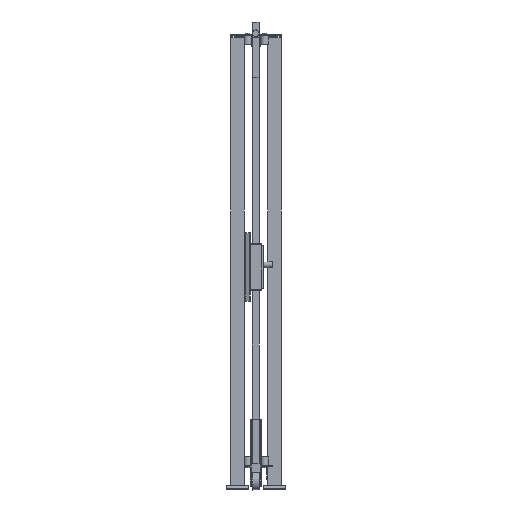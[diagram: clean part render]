
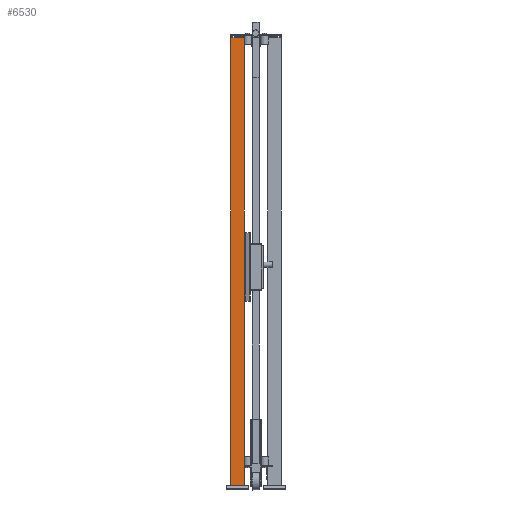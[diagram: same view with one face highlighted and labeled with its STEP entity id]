
A CAD part, left-side view. The second image highlights one B-rep face of the part: STEP entity #6530.
In plain terms, the highlighted planar face has unit normal (-1, 0, 0) as drawn and (0, 1, 0) by its records, which use the part's own axes.
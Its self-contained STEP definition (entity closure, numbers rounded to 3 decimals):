
#646=FACE_OUTER_BOUND('',#1172,.T.);
#1172=EDGE_LOOP('',(#4148,#4149,#4150,#4151));
#1776=VERTEX_POINT('',#14453);
#1777=VERTEX_POINT('',#14455);
#1779=VERTEX_POINT('',#14461);
#1782=VERTEX_POINT('',#14466);
#2666=EDGE_CURVE('',#1776,#1777,#7854,.T.);
#2672=EDGE_CURVE('',#1782,#1779,#7860,.T.);
#2675=EDGE_CURVE('',#1777,#1782,#7863,.T.);
#2676=EDGE_CURVE('',#1776,#1779,#7864,.T.);
#4148=ORIENTED_EDGE('',*,*,#2676,.T.);
#4149=ORIENTED_EDGE('',*,*,#2672,.F.);
#4150=ORIENTED_EDGE('',*,*,#2675,.F.);
#4151=ORIENTED_EDGE('',*,*,#2666,.F.);
#6074=PLANE('',#9977);
#6530=ADVANCED_FACE('',(#646),#6074,.F.);
#7854=LINE('',#14456,#9048);
#7860=LINE('',#14468,#9054);
#7863=LINE('',#14473,#9057);
#7864=LINE('',#14475,#9058);
#9048=VECTOR('',#11305,1.);
#9054=VECTOR('',#11313,1.);
#9057=VECTOR('',#11320,1.);
#9058=VECTOR('',#11323,1.);
#9977=AXIS2_PLACEMENT_3D('',#14474,#11321,#11322);
#11305=DIRECTION('',(-1.,0.,0.));
#11313=DIRECTION('',(1.,0.,0.));
#11320=DIRECTION('',(0.,0.,-1.));
#11321=DIRECTION('center_axis',(0.,-1.,0.));
#11322=DIRECTION('ref_axis',(0.,0.,-1.));
#11323=DIRECTION('',(0.,0.,-1.));
#14453=CARTESIAN_POINT('',(30.,30.,2020.));
#14455=CARTESIAN_POINT('',(-30.,30.,2020.));
#14456=CARTESIAN_POINT('',(0.,30.,2020.));
#14461=CARTESIAN_POINT('',(30.,30.,20.));
#14466=CARTESIAN_POINT('',(-30.,30.,20.));
#14468=CARTESIAN_POINT('',(0.,30.,20.));
#14473=CARTESIAN_POINT('',(-30.,30.,1020.));
#14474=CARTESIAN_POINT('Origin',(0.,30.,
1020.));
#14475=CARTESIAN_POINT('',(30.,30.,1020.));
